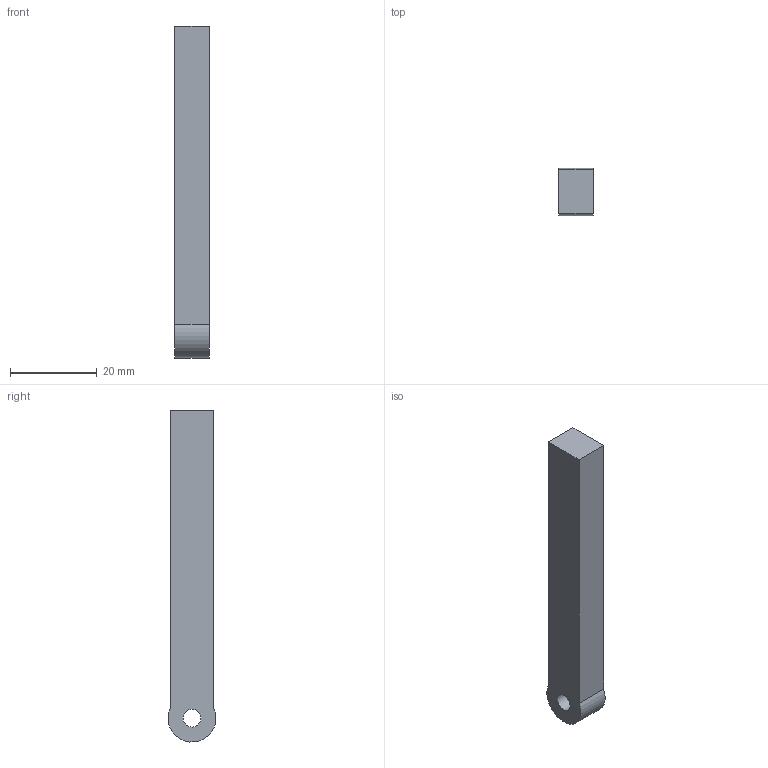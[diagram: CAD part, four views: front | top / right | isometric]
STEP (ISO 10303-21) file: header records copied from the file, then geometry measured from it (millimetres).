
FILE_DESCRIPTION(('Open CASCADE Model'),'2;1');
FILE_NAME('Open CASCADE Shape Model','2026-10-15T13:05:48',('Author'),( 'Open CASCADE'),'Open CASCADE STEP processor 7.9','Open CASCADE 7.9' ,'Unknown');
FILE_SCHEMA(('AUTOMOTIVE_DESIGN { 1 0 10303 214 1 1 1 1 }'));
Length unit declared in the file: millimetre
Products named in the file (1): Open CASCADE STEP translator 7.9 8
Bounding box: 8 x 10.96 x 76.48 mm (x, y, z)
Volume: 5966.8 mm3; surface area: 2950.1 mm2
Topology: 1 solids, 1 shells, 7 faces, 15 edges, 10 vertices
Faces by surface type: plane 5, cylinder 2
Full cylindrical faces by diameter (mm): 4.1 x1
Entity records: 410 total; most frequent: CARTESIAN_POINT 91, DIRECTION 57, LINE 33, VECTOR 33, ORIENTED_EDGE 30, PCURVE 30, DEFINITIONAL_REPRESENTATION 30, EDGE_CURVE 15
